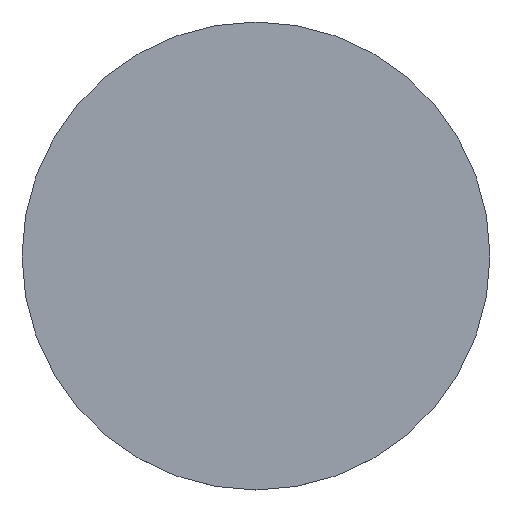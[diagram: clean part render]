
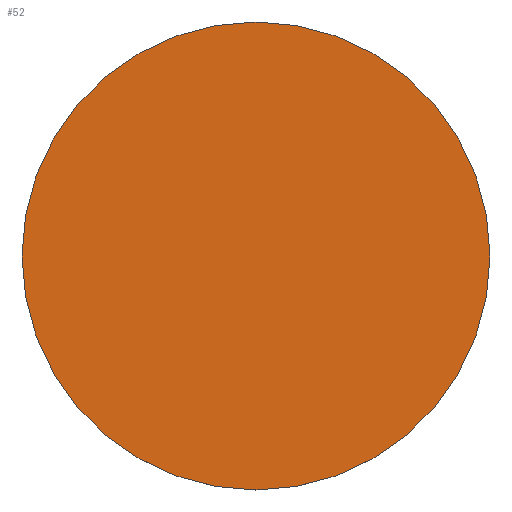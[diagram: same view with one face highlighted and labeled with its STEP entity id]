
A CAD part, top view. The second image highlights one B-rep face of the part: STEP entity #52.
In plain terms, the highlighted planar face has unit normal (0, 0, 1).
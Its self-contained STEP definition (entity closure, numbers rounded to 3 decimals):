
#42=FACE_OUTER_BOUND($,#46,.F.);
#46=EDGE_LOOP($,(#70,#71));
#50=PLANE($,#62);
#52=ADVANCED_FACE($,(#42),#50,.T.);
#56=CIRCLE($,#60,10.);
#57=CIRCLE($,#61,10.);
#60=AXIS2_PLACEMENT_3D($,#124,#114,$);
#61=AXIS2_PLACEMENT_3D($,#125,#114,$);
#62=AXIS2_PLACEMENT_3D($,#122,#114,$);
#70=ORIENTED_EDGE($,*,*,#82,.T.);
#71=ORIENTED_EDGE($,*,*,#83,.T.);
#82=EDGE_CURVE($,#89,#90,#56,.F.);
#83=EDGE_CURVE($,#90,#89,#57,.F.);
#89=VERTEX_POINT($,#121);
#90=VERTEX_POINT($,#122);
#114=DIRECTION($,(0.,0.,1.));
#121=CARTESIAN_POINT('',(10.,0.,0.));
#122=CARTESIAN_POINT('',(-10.,0.,0.));
#124=CARTESIAN_POINT('',(0.,0.,0.));
#125=CARTESIAN_POINT('',(0.,0.,0.));
